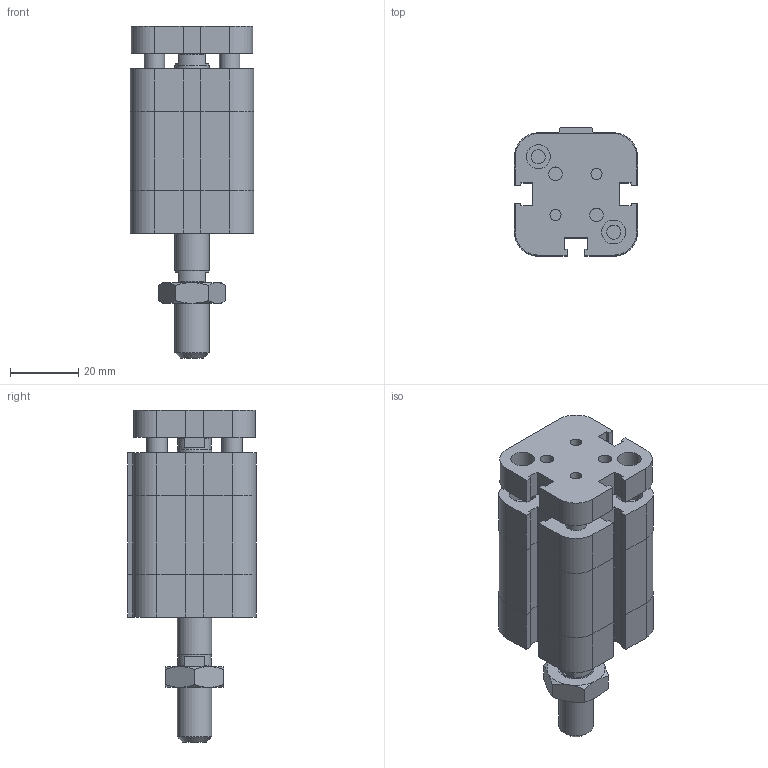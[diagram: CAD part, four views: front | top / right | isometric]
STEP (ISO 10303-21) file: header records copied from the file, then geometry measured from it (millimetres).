
FILE_DESCRIPTION((''),'2;1');
FILE_NAME('I:\Area Tecnica\Disegni\VARIE-3D\Componenti\EUROPE\15##_###_####_09_#\1581_20_0010_09_1.iam.stp','2009-04-20T15:43:00',(''),(''),'Autodesk Inventor 2009','Autodesk Inventor 2009','');
FILE_SCHEMA(('AUTOMOTIVE_DESIGN { 1 0 10303 214 1 1 1 1 }'));
Length unit declared in the file: millimetre
Products named in the file (4): 1581_20_0010_09_1; 1581_20_0010_08_1_C; 1561_20_0010_09_1_SA; DBFM10
Assembly tree (3 placements, depth 2):
  1581_20_0010_09_1
    1581_20_0010_08_1_C
    1561_20_0010_09_1_SA
    DBFM10
Bounding box: 36 x 37.5 x 97 mm (x, y, z)
Volume: 66492 mm3; surface area: 23649.7 mm2
Topology: 3 solids, 3 shells, 236 faces, 550 edges, 339 vertices
Faces by surface type: plane 147, bspline 45, cylinder 23, cone 21
Full cylindrical faces by diameter (mm): 6 x2, 8.8 x1, 9.8 x2, 10 x2
Entity records: 6859 total; most frequent: CARTESIAN_POINT 1610, ORIENTED_EDGE 992, DIRECTION 974, EDGE_CURVE 496, VECTOR 350, LINE 350, VERTEX_POINT 322, AXIS2_PLACEMENT_3D 312
